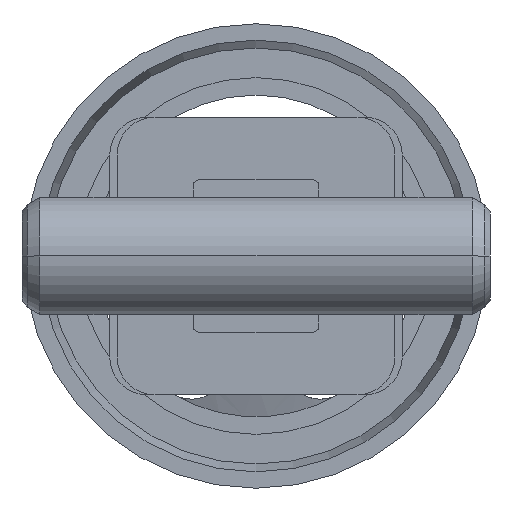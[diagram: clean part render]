
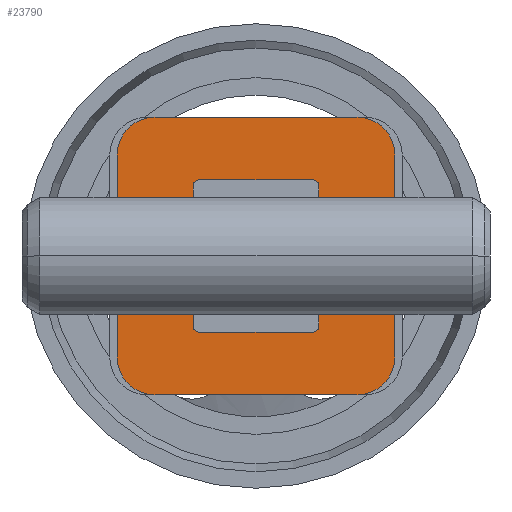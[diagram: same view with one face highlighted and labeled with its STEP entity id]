
A CAD part, front view. The second image highlights one B-rep face of the part: STEP entity #23790.
In plain terms, the highlighted planar face has unit normal (0, -1, 0).
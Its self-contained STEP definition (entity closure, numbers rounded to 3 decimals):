
#1070=CARTESIAN_POINT('',(96.533,39.,18.284));
#1080=VERTEX_POINT('',#1070);
#1110=CARTESIAN_POINT('',(89.977,39.,0.));
#1120=DIRECTION('',(0.,-1.,-0.));
#1130=DIRECTION('',(1.,0.,0.));
#1140=AXIS2_PLACEMENT_3D('',#1110,#1120,#1130);
#1150=ELLIPSE('',#1140,24.111,19.);
#1160=CARTESIAN_POINT('',(96.533,39.,-18.284));
#1170=VERTEX_POINT('',#1160);
#1180=EDGE_CURVE('',#1170,#1080,#1150,.T.);
#7950=CARTESIAN_POINT('',(109.5,39.,47.5));
#7960=VERTEX_POINT('',#7950);
#8120=CARTESIAN_POINT('',(122.5,39.,34.5));
#8130=VERTEX_POINT('',#8120);
#8160=CARTESIAN_POINT('',(109.5,39.,34.5));
#8170=DIRECTION('',(0.,1.,0.));
#8180=DIRECTION('',(0.,0.,1.));
#8190=AXIS2_PLACEMENT_3D('',#8160,#8170,#8180);
#8200=CIRCLE('',#8190,13.);
#8210=EDGE_CURVE('',#7960,#8130,#8200,.T.);
#8540=CARTESIAN_POINT('',(32.,39.,6.));
#8550=VERTEX_POINT('',#8540);
#8580=CARTESIAN_POINT('',(75.,39.,6.));
#8590=DIRECTION('',(1.,0.,0.));
#8600=VECTOR('',#8590,1.);
#8610=LINE('',#8580,#8600);
#8620=CARTESIAN_POINT('',(47.65,39.,6.));
#8630=VERTEX_POINT('',#8620);
#8640=EDGE_CURVE('',#8550,#8630,#8610,.T.);
#8930=CARTESIAN_POINT('',(122.5,39.,-34.5));
#8940=VERTEX_POINT('',#8930);
#8970=CARTESIAN_POINT('',(122.5,39.,34.5));
#8980=DIRECTION('',(0.,0.,-1.));
#8990=VECTOR('',#8980,1.);
#9000=LINE('',#8970,#8990);
#9010=EDGE_CURVE('',#8130,#8940,#9000,.T.);
#9170=CARTESIAN_POINT('',(109.5,39.,-47.5));
#9180=VERTEX_POINT('',#9170);
#9330=CARTESIAN_POINT('',(40.5,39.,-47.5));
#9340=VERTEX_POINT('',#9330);
#9370=CARTESIAN_POINT('',(109.5,39.,-47.5));
#9380=DIRECTION('',(-1.,0.,0.));
#9390=VECTOR('',#9380,1.);
#9400=LINE('',#9370,#9390);
#9410=EDGE_CURVE('',#9180,#9340,#9400,.T.);
#9570=CARTESIAN_POINT('',(27.5,39.,34.5));
#9580=VERTEX_POINT('',#9570);
#9740=CARTESIAN_POINT('',(40.5,39.,47.5));
#9750=VERTEX_POINT('',#9740);
#9780=CARTESIAN_POINT('',(40.5,39.,34.5));
#9790=DIRECTION('',(0.,1.,0.));
#9800=DIRECTION('',(-1.,0.,0.));
#9810=AXIS2_PLACEMENT_3D('',#9780,#9790,#9800);
#9820=CIRCLE('',#9810,13.);
#9830=EDGE_CURVE('',#9580,#9750,#9820,.T.);
#10310=CARTESIAN_POINT('',(27.5,39.,-34.5));
#10320=VERTEX_POINT('',#10310);
#10350=CARTESIAN_POINT('',(40.5,39.,-34.5));
#10360=DIRECTION('',(0.,1.,0.));
#10370=DIRECTION('',(0.,0.,-1.));
#10380=AXIS2_PLACEMENT_3D('',#10350,#10360,#10370);
#10390=CIRCLE('',#10380,13.);
#10400=EDGE_CURVE('',#9340,#10320,#10390,.T.);
#10590=CARTESIAN_POINT('',(109.5,39.,-34.5));
#10600=DIRECTION('',(-0.,1.,0.));
#10610=DIRECTION('',(1.,0.,0.));
#10620=AXIS2_PLACEMENT_3D('',#10590,#10600,#10610);
#10630=CIRCLE('',#10620,13.);
#10640=EDGE_CURVE('',#8940,#9180,#10630,.T.);
#14020=CARTESIAN_POINT('',(94.5,39.,26.));
#14030=VERTEX_POINT('',#14020);
#14180=CARTESIAN_POINT('',(55.5,39.,26.));
#14190=VERTEX_POINT('',#14180);
#14220=CARTESIAN_POINT('',(84.75,39.,26.));
#14230=DIRECTION('',(1.,0.,0.));
#14240=VECTOR('',#14230,1.);
#14250=LINE('',#14220,#14240);
#14260=EDGE_CURVE('',#14190,#14030,#14250,.T.);
#14700=CARTESIAN_POINT('',(98.5,39.,-18.648));
#14710=DIRECTION('',(-0.,-1.,0.));
#14720=DIRECTION('',(-0.783,0.,0.622));
#14730=AXIS2_PLACEMENT_3D('',#14700,#14710,#14720);
#14740=CIRCLE('',#14730,2.);
#14750=CARTESIAN_POINT('',(96.5,39.,-18.648));
#14760=VERTEX_POINT('',#14750);
#14770=EDGE_CURVE('',#1170,#14760,#14740,.T.);
#14940=CARTESIAN_POINT('',(75.,39.,0.));
#14950=DIRECTION('',(0.,1.,0.));
#14960=DIRECTION('',(-0.783,0.,-0.622));
#14970=AXIS2_PLACEMENT_3D('',#14940,#14950,#14960);
#14980=CIRCLE('',#14970,28.);
#14990=CARTESIAN_POINT('',(53.067,39.,17.405));
#15000=VERTEX_POINT('',#14990);
#15010=EDGE_CURVE('',#8630,#15000,#14980,.T.);
#15410=CARTESIAN_POINT('',(96.5,39.,18.648));
#15420=VERTEX_POINT('',#15410);
#15450=CARTESIAN_POINT('',(98.5,39.,18.648));
#15460=DIRECTION('',(0.,-1.,-0.));
#15470=DIRECTION('',(-1.,0.,0.));
#15480=AXIS2_PLACEMENT_3D('',#15450,#15460,#15470);
#15490=CIRCLE('',#15480,2.);
#15500=EDGE_CURVE('',#15420,#1080,#15490,.T.);
#15620=CARTESIAN_POINT('',(51.5,39.,18.648));
#15630=DIRECTION('',(0.,-1.,-0.));
#15640=DIRECTION('',(0.783,0.,-0.622));
#15650=AXIS2_PLACEMENT_3D('',#15620,#15630,#15640);
#15660=CIRCLE('',#15650,2.);
#15670=CARTESIAN_POINT('',(53.5,39.,18.648));
#15680=VERTEX_POINT('',#15670);
#15690=EDGE_CURVE('',#15000,#15680,#15660,.T.);
#16510=CARTESIAN_POINT('',(53.5,39.,-18.648));
#16520=VERTEX_POINT('',#16510);
#16550=CARTESIAN_POINT('',(51.5,39.,-18.648));
#16560=DIRECTION('',(0.,-1.,-0.));
#16570=DIRECTION('',(1.,0.,0.));
#16580=AXIS2_PLACEMENT_3D('',#16550,#16560,#16570);
#16590=CIRCLE('',#16580,2.);
#16600=CARTESIAN_POINT('',(53.067,39.,-17.405));
#16610=VERTEX_POINT('',#16600);
#16620=EDGE_CURVE('',#16520,#16610,#16590,.T.);
#16850=CARTESIAN_POINT('',(53.5,39.,-24.));
#16860=VERTEX_POINT('',#16850);
#17020=CARTESIAN_POINT('',(55.5,39.,-26.));
#17030=VERTEX_POINT('',#17020);
#17060=CARTESIAN_POINT('',(55.5,39.,-24.));
#17070=DIRECTION('',(0.,1.,0.));
#17080=DIRECTION('',(0.,0.,-1.));
#17090=AXIS2_PLACEMENT_3D('',#17060,#17070,#17080);
#17100=CIRCLE('',#17090,2.);
#17110=EDGE_CURVE('',#17030,#16860,#17100,.T.);
#17340=CARTESIAN_POINT('',(94.5,39.,-26.));
#17350=VERTEX_POINT('',#17340);
#17380=CARTESIAN_POINT('',(65.25,39.,-26.));
#17390=DIRECTION('',(-1.,0.,0.));
#17400=VECTOR('',#17390,1.);
#17410=LINE('',#17380,#17400);
#17420=EDGE_CURVE('',#17350,#17030,#17410,.T.);
#17660=CARTESIAN_POINT('',(96.5,39.,-24.));
#17670=VERTEX_POINT('',#17660);
#17700=CARTESIAN_POINT('',(94.5,39.,-24.));
#17710=DIRECTION('',(-0.,1.,0.));
#17720=DIRECTION('',(1.,0.,0.));
#17730=AXIS2_PLACEMENT_3D('',#17700,#17710,#17720);
#17740=CIRCLE('',#17730,2.);
#17750=EDGE_CURVE('',#17670,#17350,#17740,.T.);
#17930=CARTESIAN_POINT('',(96.5,39.,-12.));
#17940=DIRECTION('',(0.,0.,-1.));
#17950=VECTOR('',#17940,1.);
#17960=LINE('',#17930,#17950);
#17970=EDGE_CURVE('',#14760,#17670,#17960,.T.);
#18350=CARTESIAN_POINT('',(96.5,39.,24.));
#18360=VERTEX_POINT('',#18350);
#18390=CARTESIAN_POINT('',(96.5,39.,9.324));
#18400=DIRECTION('',(0.,0.,-1.));
#18410=VECTOR('',#18400,1.);
#18420=LINE('',#18390,#18410);
#18430=EDGE_CURVE('',#18360,#15420,#18420,.T.);
#18580=CARTESIAN_POINT('',(94.5,39.,24.));
#18590=DIRECTION('',(0.,1.,0.));
#18600=DIRECTION('',(0.,0.,1.));
#18610=AXIS2_PLACEMENT_3D('',#18580,#18590,#18600);
#18620=CIRCLE('',#18610,2.);
#18630=EDGE_CURVE('',#14030,#18360,#18620,.T.);
#19250=CARTESIAN_POINT('',(53.5,39.,24.));
#19260=VERTEX_POINT('',#19250);
#19290=CARTESIAN_POINT('',(55.5,39.,24.));
#19300=DIRECTION('',(0.,1.,0.));
#19310=DIRECTION('',(-1.,0.,0.));
#19320=AXIS2_PLACEMENT_3D('',#19290,#19300,#19310);
#19330=CIRCLE('',#19320,2.);
#19340=EDGE_CURVE('',#19260,#14190,#19330,.T.);
#19460=CARTESIAN_POINT('',(75.,39.,0.));
#19470=DIRECTION('',(0.,1.,0.));
#19480=DIRECTION('',(-0.783,0.,-0.622));
#19490=AXIS2_PLACEMENT_3D('',#19460,#19470,#19480);
#19500=CIRCLE('',#19490,28.);
#19510=CARTESIAN_POINT('',(47.65,39.,-6.));
#19520=VERTEX_POINT('',#19510);
#19530=EDGE_CURVE('',#16610,#19520,#19500,.T.);
#19910=CARTESIAN_POINT('',(53.5,39.,9.5));
#19920=DIRECTION('',(0.,-0.,1.));
#19930=VECTOR('',#19920,1.);
#19940=LINE('',#19910,#19930);
#19950=EDGE_CURVE('',#16860,#16520,#19940,.T.);
#20330=CARTESIAN_POINT('',(53.5,39.,9.5));
#20340=DIRECTION('',(0.,-0.,1.));
#20350=VECTOR('',#20340,1.);
#20360=LINE('',#20330,#20350);
#20370=EDGE_CURVE('',#15680,#19260,#20360,.T.);
#21740=CARTESIAN_POINT('',(27.5,39.,-34.5));
#21750=DIRECTION('',(0.,0.,1.));
#21760=VECTOR('',#21750,1.);
#21770=LINE('',#21740,#21760);
#21780=EDGE_CURVE('',#10320,#9580,#21770,.T.);
#22210=CARTESIAN_POINT('',(75.,39.,-6.));
#22220=DIRECTION('',(-1.,0.,0.));
#22230=VECTOR('',#22220,1.);
#22240=LINE('',#22210,#22230);
#22250=CARTESIAN_POINT('',(32.,39.,-6.));
#22260=VERTEX_POINT('',#22250);
#22270=EDGE_CURVE('',#19520,#22260,#22240,.T.);
#23060=CARTESIAN_POINT('',(40.5,39.,47.5));
#23070=DIRECTION('',(1.,0.,0.));
#23080=VECTOR('',#23070,1.);
#23090=LINE('',#23060,#23080);
#23100=EDGE_CURVE('',#9750,#7960,#23090,.T.);
#23370=CARTESIAN_POINT('',(75.,39.,0.));
#23380=DIRECTION('',(0.,1.,0.));
#23390=DIRECTION('',(0.,0.,1.));
#23400=AXIS2_PLACEMENT_3D('',#23370,#23380,#23390);
#23410=PLANE('',#23400);
#23420=ORIENTED_EDGE('',*,*,#16620,.T.);
#23430=ORIENTED_EDGE('',*,*,#19950,.T.);
#23440=ORIENTED_EDGE('',*,*,#17110,.T.);
#23450=ORIENTED_EDGE('',*,*,#17420,.T.);
#23460=ORIENTED_EDGE('',*,*,#17750,.T.);
#23470=ORIENTED_EDGE('',*,*,#17970,.T.);
#23480=ORIENTED_EDGE('',*,*,#14770,.T.);
#23490=ORIENTED_EDGE('',*,*,#1180,.F.);
#23500=ORIENTED_EDGE('',*,*,#15500,.T.);
#23510=ORIENTED_EDGE('',*,*,#18430,.T.);
#23520=ORIENTED_EDGE('',*,*,#18630,.T.);
#23530=ORIENTED_EDGE('',*,*,#14260,.T.);
#23540=ORIENTED_EDGE('',*,*,#19340,.T.);
#23550=ORIENTED_EDGE('',*,*,#20370,.T.);
#23560=ORIENTED_EDGE('',*,*,#15690,.T.);
#23570=ORIENTED_EDGE('',*,*,#15010,.T.);
#23580=ORIENTED_EDGE('',*,*,#8640,.T.);
#23590=CARTESIAN_POINT('',(32.,39.,3.));
#23600=DIRECTION('',(0.,0.,1.));
#23610=VECTOR('',#23600,1.);
#23620=LINE('',#23590,#23610);
#23630=EDGE_CURVE('',#22260,#8550,#23620,.T.);
#23640=ORIENTED_EDGE('',*,*,#23630,.T.);
#23650=ORIENTED_EDGE('',*,*,#22270,.T.);
#23660=ORIENTED_EDGE('',*,*,#19530,.T.);
#23670=EDGE_LOOP('',(#23660,#23650,#23640,#23580,#23570,#23560,#23550,
#23540,#23530,#23520,#23510,#23500,#23490,#23480,#23470,#23460,#23450,
#23440,#23430,#23420));
#23680=FACE_BOUND('',#23670,.T.);
#23690=ORIENTED_EDGE('',*,*,#23100,.F.);
#23700=ORIENTED_EDGE('',*,*,#8210,.F.);
#23710=ORIENTED_EDGE('',*,*,#9010,.F.);
#23720=ORIENTED_EDGE('',*,*,#10640,.F.);
#23730=ORIENTED_EDGE('',*,*,#9410,.F.);
#23740=ORIENTED_EDGE('',*,*,#10400,.F.);
#23750=ORIENTED_EDGE('',*,*,#21780,.F.);
#23760=ORIENTED_EDGE('',*,*,#9830,.F.);
#23770=EDGE_LOOP('',(#23760,#23750,#23740,#23730,#23720,#23710,#23700,
#23690));
#23780=FACE_OUTER_BOUND('',#23770,.T.);
#23790=ADVANCED_FACE('',(#23680,#23780),#23410,.F.);
